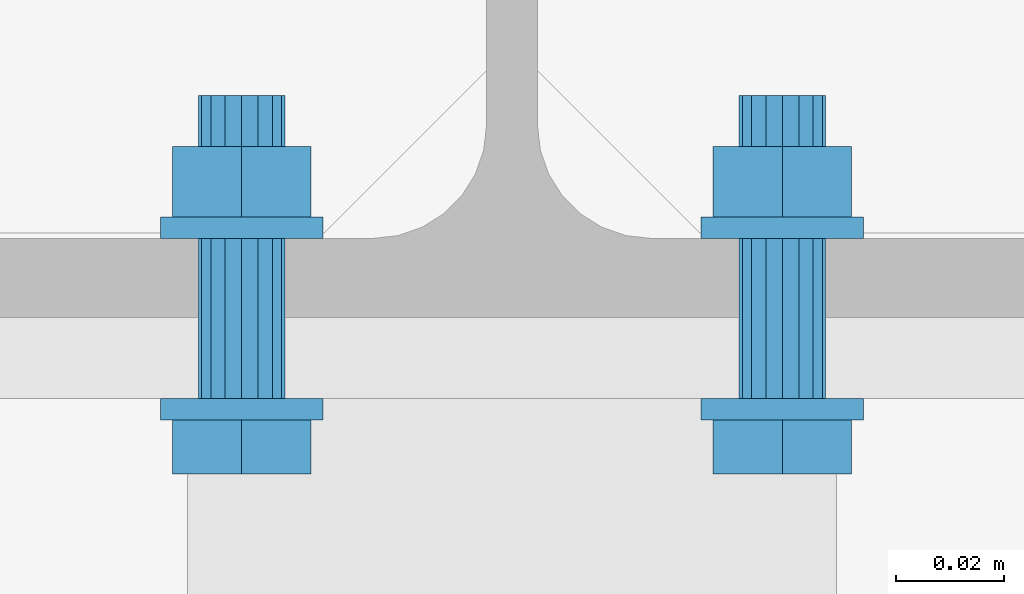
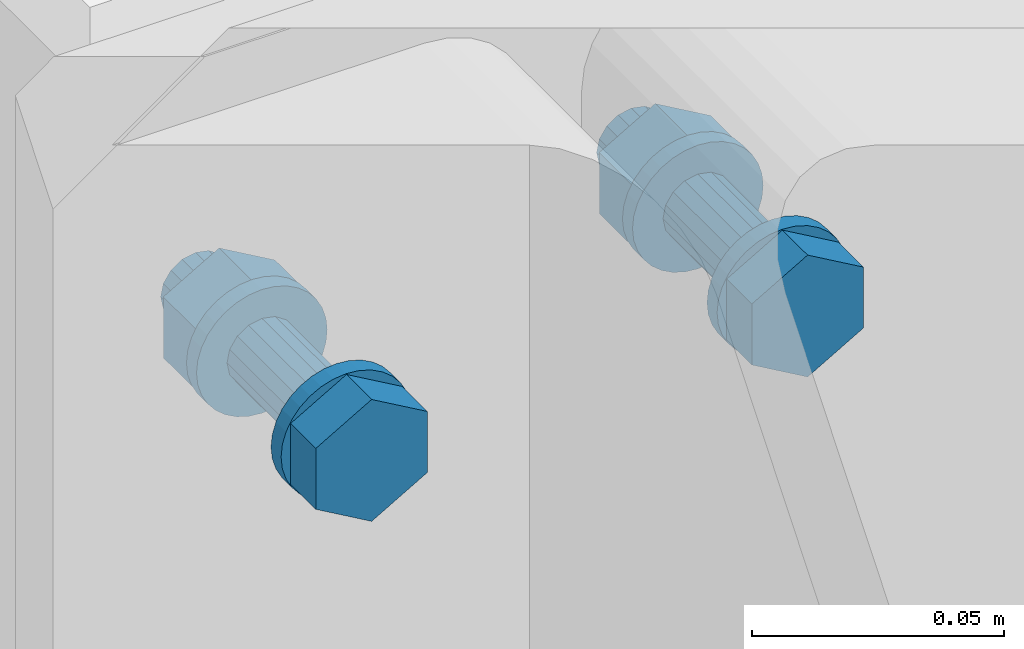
# Not in any storey, part 48 of 50: 2 mechanical fasteners.
"""IFC4 model written with IfcOpenShell, lengths in metres."""

from ifc_helpers import new_model, entity, si_unit, converted_unit, derived_unit, direction, origin, origin_with_axes, place, context, project, spatial, faceted_brep, element, save


model = new_model("IFC4")

# Units and contexts
model_context = context("Model", 3, precision=1e-05, world=origin(), true_north=direction((6.123233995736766e-17, 1.0)))
ifc_project = project(units=[si_unit("LENGTHUNIT", "METRE"), si_unit("AREAUNIT", "SQUARE_METRE"), converted_unit("PLANEANGLEUNIT", "DEGREE", entity("IfcPlaneAngleMeasure", 0.017453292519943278), si_unit("PLANEANGLEUNIT", "RADIAN"), dimensions=[0, 0, 0, 0, 0, 0, 0]), si_unit("VOLUMEUNIT", "CUBIC_METRE"), derived_unit("THERMALTRANSMITTANCEUNIT", [(si_unit("MASSUNIT", "GRAM", prefix="KILO"), 1), (si_unit("THERMODYNAMICTEMPERATUREUNIT", "KELVIN"), -1), (si_unit("TIMEUNIT", "SECOND"), -3)])], contexts=[model_context])

# Site
site_placement = place(None, origin())
site = spatial("IfcSite", under=ifc_project, at=site_placement, Name="Default", CompositionType="ELEMENT")

# Mechanical fasteners
mechanical_fastener_1_placement = place(site_placement, origin_with_axes())
element("IfcMechanicalFastener", 1, at=mechanical_fastener_1_placement, inside=site, ObjectType="Bolt#1", NominalDiameter=0.016, NominalLength=0.06, context=model_context, shape_type="Brep", body=[
    faceted_brep([(23.225144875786, 17.685767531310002, 5.895), (23.225144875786, 17.68976753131, 5.895), (23.22543309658, 17.68976753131, 5.89207364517), (23.22543309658, 17.685767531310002, 5.89207364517), (23.226286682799, 17.68976753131, 5.889259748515), (23.226286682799, 17.685767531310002, 5.889259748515), (23.227672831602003, 17.68976753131, 5.886666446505), (23.227672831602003, 17.685767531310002, 5.886666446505), (23.229538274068, 17.68976753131, 5.884393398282), (23.229538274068, 17.685767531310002, 5.884393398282), (23.231811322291, 17.68976753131, 5.882527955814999), (23.231811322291, 17.685767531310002, 5.882527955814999), (23.234404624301, 17.68976753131, 5.881141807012), (23.234404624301, 17.685767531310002, 5.881141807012), (23.237218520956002, 17.68976753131, 5.880288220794), (23.237218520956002, 17.685767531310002, 5.880288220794), (23.240144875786, 17.68976753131, 5.88), (23.240144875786, 17.685767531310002, 5.88), (23.243071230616, 17.68976753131, 5.880288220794), (23.243071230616, 17.685767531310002, 5.880288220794), (23.245885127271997, 17.68976753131, 5.881141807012), (23.245885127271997, 17.685767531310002, 5.881141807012), (23.248478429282, 17.68976753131, 5.882527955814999), (23.248478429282, 17.685767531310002, 5.882527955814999), (23.250751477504, 17.68976753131, 5.884393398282), (23.250751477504, 17.685767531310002, 5.884393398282), (23.252616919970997, 17.68976753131, 5.886666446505), (23.252616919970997, 17.685767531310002, 5.886666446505), (23.254003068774, 17.68976753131, 5.889259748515), (23.254003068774, 17.685767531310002, 5.889259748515), (23.254856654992, 17.68976753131, 5.89207364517), (23.254856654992, 17.685767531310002, 5.89207364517), (23.255144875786, 17.68976753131, 5.895), (23.255144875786, 17.685767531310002, 5.895), (23.254856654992, 17.68976753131, 5.897926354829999), (23.254856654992, 17.685767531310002, 5.897926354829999), (23.254003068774, 17.68976753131, 5.900740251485), (23.254003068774, 17.685767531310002, 5.900740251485), (23.252616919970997, 17.68976753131, 5.903333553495), (23.252616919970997, 17.685767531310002, 5.903333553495), (23.250751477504, 17.68976753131, 5.9056066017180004), (23.250751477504, 17.685767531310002, 5.9056066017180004), (23.248478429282, 17.68976753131, 5.907472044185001), (23.248478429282, 17.685767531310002, 5.907472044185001), (23.245885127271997, 17.68976753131, 5.908858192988), (23.245885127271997, 17.685767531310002, 5.908858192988), (23.243071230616, 17.68976753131, 5.909711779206), (23.243071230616, 17.685767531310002, 5.909711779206), (23.240144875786, 17.68976753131, 5.91), (23.240144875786, 17.685767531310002, 5.91), (23.237218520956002, 17.68976753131, 5.909711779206), (23.237218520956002, 17.685767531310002, 5.909711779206), (23.234404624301, 17.68976753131, 5.908858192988), (23.234404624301, 17.685767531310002, 5.908858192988), (23.231811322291, 17.68976753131, 5.907472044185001), (23.231811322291, 17.685767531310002, 5.907472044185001), (23.229538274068, 17.68976753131, 5.9056066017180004), (23.229538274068, 17.685767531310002, 5.9056066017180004), (23.227672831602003, 17.68976753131, 5.903333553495), (23.227672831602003, 17.685767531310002, 5.903333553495), (23.226286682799, 17.68976753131, 5.900740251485), (23.226286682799, 17.685767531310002, 5.900740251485), (23.22543309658, 17.68976753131, 5.897926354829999), (23.22543309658, 17.685767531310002, 5.897926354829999)], [[[0, 1, 2, 3]], [[3, 2, 4, 5]], [[5, 4, 6, 7]], [[7, 6, 8, 9]], [[9, 8, 10, 11]], [[11, 10, 12, 13]], [[13, 12, 14, 15]], [[15, 14, 16, 17]], [[17, 16, 18, 19]], [[19, 18, 20, 21]], [[21, 20, 22, 23]], [[23, 22, 24, 25]], [[25, 24, 26, 27]], [[27, 26, 28, 29]], [[29, 28, 30, 31]], [[31, 30, 32, 33]], [[33, 32, 34, 35]], [[35, 34, 36, 37]], [[37, 36, 38, 39]], [[39, 38, 40, 41]], [[41, 40, 42, 43]], [[43, 42, 44, 45]], [[45, 44, 46, 47]], [[47, 46, 48, 49]], [[49, 48, 50, 51]], [[51, 50, 52, 53]], [[53, 52, 54, 55]], [[55, 54, 56, 57]], [[57, 56, 58, 59]], [[59, 58, 60, 61]], [[61, 60, 62, 63]], [[63, 62, 1, 0]], [[0, 3, 5, 7, 9, 11, 13, 15, 17, 19, 21, 23, 25, 27, 29, 31, 33, 35, 37, 39, 41, 43, 45, 47, 49, 51, 53, 55, 57, 59, 61, 63]], [[1, 62, 60, 58, 56, 54, 52, 50, 48, 46, 44, 42, 40, 38, 36, 34, 32, 30, 28, 26, 24, 22, 20, 18, 16, 14, 12, 10, 8, 6, 4, 2]]]),
    faceted_brep([(23.252944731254, 17.685767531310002, 5.88761), (23.252944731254, 17.67576753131, 5.88761), (23.240144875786, 17.67576753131, 5.8802200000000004), (23.240144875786, 17.685767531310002, 5.8802200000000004), (23.227345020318, 17.67576753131, 5.88761), (23.227345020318, 17.685767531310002, 5.88761), (23.227345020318, 17.67576753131, 5.9023900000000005), (23.227345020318, 17.685767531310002, 5.9023900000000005), (23.240144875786, 17.67576753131, 5.90978), (23.240144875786, 17.685767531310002, 5.90978), (23.252944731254, 17.67576753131, 5.9023900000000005), (23.252944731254, 17.685767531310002, 5.9023900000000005)], [[[0, 1, 2, 3]], [[3, 2, 4, 5]], [[5, 4, 6, 7]], [[7, 6, 8, 9]], [[9, 8, 10, 11]], [[11, 10, 1, 0]], [[4, 2, 1, 10, 8, 6]], [[0, 3, 5, 7, 9, 11]]]),
    faceted_brep([(23.232144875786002, 17.68976753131, 5.895), (23.232144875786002, 17.71936753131, 5.895), (23.232753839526, 17.71936753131, 5.891938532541), (23.232753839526, 17.68976753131, 5.891938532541), (23.234488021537, 17.71936753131, 5.889343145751), (23.234488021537, 17.68976753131, 5.889343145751), (23.237083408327, 17.71936753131, 5.88760896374), (23.237083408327, 17.68976753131, 5.88760896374), (23.240144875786, 17.71936753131, 5.887), (23.240144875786, 17.68976753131, 5.887), (23.243206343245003, 17.71936753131, 5.88760896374), (23.243206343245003, 17.68976753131, 5.88760896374), (23.245801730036, 17.71936753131, 5.889343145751), (23.245801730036, 17.68976753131, 5.889343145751), (23.247535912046, 17.71936753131, 5.891938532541), (23.247535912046, 17.68976753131, 5.891938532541), (23.248144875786, 17.71936753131, 5.895), (23.248144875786, 17.68976753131, 5.895), (23.247535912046, 17.71936753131, 5.898061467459), (23.247535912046, 17.68976753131, 5.898061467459), (23.245801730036, 17.71936753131, 5.900656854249), (23.245801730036, 17.68976753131, 5.900656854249), (23.243206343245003, 17.71936753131, 5.90239103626), (23.243206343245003, 17.68976753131, 5.90239103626), (23.240144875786, 17.71936753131, 5.903), (23.240144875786, 17.68976753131, 5.903), (23.237083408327, 17.71936753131, 5.90239103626), (23.237083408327, 17.68976753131, 5.90239103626), (23.234488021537, 17.71936753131, 5.900656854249), (23.234488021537, 17.68976753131, 5.900656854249), (23.232753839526, 17.71936753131, 5.898061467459), (23.232753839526, 17.68976753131, 5.898061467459)], [[[0, 1, 2, 3]], [[3, 2, 4, 5]], [[5, 4, 6, 7]], [[7, 6, 8, 9]], [[9, 8, 10, 11]], [[11, 10, 12, 13]], [[13, 12, 14, 15]], [[15, 14, 16, 17]], [[17, 16, 18, 19]], [[19, 18, 20, 21]], [[21, 20, 22, 23]], [[23, 22, 24, 25]], [[25, 24, 26, 27]], [[27, 26, 28, 29]], [[29, 28, 30, 31]], [[31, 30, 1, 0]], [[0, 3, 5, 7, 9, 11, 13, 15, 17, 19, 21, 23, 25, 27, 29, 31]], [[1, 30, 28, 26, 24, 22, 20, 18, 16, 14, 12, 10, 8, 6, 4, 2]]]),
    faceted_brep([(23.225144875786, 17.71936753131, 5.895), (23.225144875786, 17.72336753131, 5.895), (23.22543309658, 17.72336753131, 5.89207364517), (23.22543309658, 17.71936753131, 5.89207364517), (23.226286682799, 17.72336753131, 5.889259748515), (23.226286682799, 17.71936753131, 5.889259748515), (23.227672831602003, 17.72336753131, 5.886666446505), (23.227672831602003, 17.71936753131, 5.886666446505), (23.229538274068, 17.72336753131, 5.884393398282), (23.229538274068, 17.71936753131, 5.884393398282), (23.231811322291, 17.72336753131, 5.882527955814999), (23.231811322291, 17.71936753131, 5.882527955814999), (23.234404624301, 17.72336753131, 5.881141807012), (23.234404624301, 17.71936753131, 5.881141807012), (23.237218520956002, 17.72336753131, 5.880288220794), (23.237218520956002, 17.71936753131, 5.880288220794), (23.240144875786, 17.72336753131, 5.88), (23.240144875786, 17.71936753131, 5.88), (23.243071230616, 17.72336753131, 5.880288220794), (23.243071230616, 17.71936753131, 5.880288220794), (23.245885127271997, 17.72336753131, 5.881141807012), (23.245885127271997, 17.71936753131, 5.881141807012), (23.248478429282, 17.72336753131, 5.882527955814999), (23.248478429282, 17.71936753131, 5.882527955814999), (23.250751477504, 17.72336753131, 5.884393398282), (23.250751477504, 17.71936753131, 5.884393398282), (23.252616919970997, 17.72336753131, 5.886666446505), (23.252616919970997, 17.71936753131, 5.886666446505), (23.254003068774, 17.72336753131, 5.889259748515), (23.254003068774, 17.71936753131, 5.889259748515), (23.254856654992, 17.72336753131, 5.89207364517), (23.254856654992, 17.71936753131, 5.89207364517), (23.255144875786, 17.72336753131, 5.895), (23.255144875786, 17.71936753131, 5.895), (23.254856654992, 17.72336753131, 5.897926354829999), (23.254856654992, 17.71936753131, 5.897926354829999), (23.254003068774, 17.72336753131, 5.900740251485), (23.254003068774, 17.71936753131, 5.900740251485), (23.252616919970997, 17.72336753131, 5.903333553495), (23.252616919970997, 17.71936753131, 5.903333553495), (23.250751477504, 17.72336753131, 5.9056066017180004), (23.250751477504, 17.71936753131, 5.9056066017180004), (23.248478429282, 17.72336753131, 5.907472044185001), (23.248478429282, 17.71936753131, 5.907472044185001), (23.245885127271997, 17.72336753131, 5.908858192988), (23.245885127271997, 17.71936753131, 5.908858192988), (23.243071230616, 17.72336753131, 5.909711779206), (23.243071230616, 17.71936753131, 5.909711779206), (23.240144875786, 17.72336753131, 5.91), (23.240144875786, 17.71936753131, 5.91), (23.237218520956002, 17.72336753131, 5.909711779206), (23.237218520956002, 17.71936753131, 5.909711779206), (23.234404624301, 17.72336753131, 5.908858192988), (23.234404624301, 17.71936753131, 5.908858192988), (23.231811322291, 17.72336753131, 5.907472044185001), (23.231811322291, 17.71936753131, 5.907472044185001), (23.229538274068, 17.72336753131, 5.9056066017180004), (23.229538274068, 17.71936753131, 5.9056066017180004), (23.227672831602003, 17.72336753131, 5.903333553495), (23.227672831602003, 17.71936753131, 5.903333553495), (23.226286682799, 17.72336753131, 5.900740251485), (23.226286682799, 17.71936753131, 5.900740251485), (23.22543309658, 17.72336753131, 5.897926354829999), (23.22543309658, 17.71936753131, 5.897926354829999)], [[[0, 1, 2, 3]], [[3, 2, 4, 5]], [[5, 4, 6, 7]], [[7, 6, 8, 9]], [[9, 8, 10, 11]], [[11, 10, 12, 13]], [[13, 12, 14, 15]], [[15, 14, 16, 17]], [[17, 16, 18, 19]], [[19, 18, 20, 21]], [[21, 20, 22, 23]], [[23, 22, 24, 25]], [[25, 24, 26, 27]], [[27, 26, 28, 29]], [[29, 28, 30, 31]], [[31, 30, 32, 33]], [[33, 32, 34, 35]], [[35, 34, 36, 37]], [[37, 36, 38, 39]], [[39, 38, 40, 41]], [[41, 40, 42, 43]], [[43, 42, 44, 45]], [[45, 44, 46, 47]], [[47, 46, 48, 49]], [[49, 48, 50, 51]], [[51, 50, 52, 53]], [[53, 52, 54, 55]], [[55, 54, 56, 57]], [[57, 56, 58, 59]], [[59, 58, 60, 61]], [[61, 60, 62, 63]], [[63, 62, 1, 0]], [[0, 3, 5, 7, 9, 11, 13, 15, 17, 19, 21, 23, 25, 27, 29, 31, 33, 35, 37, 39, 41, 43, 45, 47, 49, 51, 53, 55, 57, 59, 61, 63]], [[1, 62, 60, 58, 56, 54, 52, 50, 48, 46, 44, 42, 40, 38, 36, 34, 32, 30, 28, 26, 24, 22, 20, 18, 16, 14, 12, 10, 8, 6, 4, 2]]]),
    faceted_brep([(23.252944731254, 17.736367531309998, 5.88761), (23.252944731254, 17.72336753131, 5.88761), (23.240144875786, 17.72336753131, 5.8802200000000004), (23.240144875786, 17.736367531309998, 5.8802200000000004), (23.227345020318, 17.72336753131, 5.88761), (23.227345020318, 17.736367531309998, 5.88761), (23.227345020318, 17.72336753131, 5.9023900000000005), (23.227345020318, 17.736367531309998, 5.9023900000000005), (23.240144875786, 17.72336753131, 5.90978), (23.240144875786, 17.736367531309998, 5.90978), (23.252944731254, 17.72336753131, 5.9023900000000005), (23.252944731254, 17.736367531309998, 5.9023900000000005)], [[[0, 1, 2, 3]], [[3, 2, 4, 5]], [[5, 4, 6, 7]], [[7, 6, 8, 9]], [[9, 8, 10, 11]], [[11, 10, 1, 0]], [[4, 2, 1, 10, 8, 6]], [[0, 3, 5, 7, 9, 11]]]),
    faceted_brep([(23.232144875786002, 17.736367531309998, 5.895), (23.232144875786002, 17.74576753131, 5.895), (23.232753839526, 17.74576753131, 5.891938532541), (23.232753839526, 17.736367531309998, 5.891938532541), (23.234488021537, 17.74576753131, 5.889343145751), (23.234488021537, 17.736367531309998, 5.889343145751), (23.237083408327, 17.74576753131, 5.88760896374), (23.237083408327, 17.736367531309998, 5.88760896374), (23.240144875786, 17.74576753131, 5.887), (23.240144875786, 17.736367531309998, 5.887), (23.243206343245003, 17.74576753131, 5.88760896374), (23.243206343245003, 17.736367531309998, 5.88760896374), (23.245801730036, 17.74576753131, 5.889343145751), (23.245801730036, 17.736367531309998, 5.889343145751), (23.247535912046, 17.74576753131, 5.891938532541), (23.247535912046, 17.736367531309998, 5.891938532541), (23.248144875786, 17.74576753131, 5.895), (23.248144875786, 17.736367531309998, 5.895), (23.247535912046, 17.74576753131, 5.898061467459), (23.247535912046, 17.736367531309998, 5.898061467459), (23.245801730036, 17.74576753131, 5.900656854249), (23.245801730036, 17.736367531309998, 5.900656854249), (23.243206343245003, 17.74576753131, 5.90239103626), (23.243206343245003, 17.736367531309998, 5.90239103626), (23.240144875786, 17.74576753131, 5.903), (23.240144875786, 17.736367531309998, 5.903), (23.237083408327, 17.74576753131, 5.90239103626), (23.237083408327, 17.736367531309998, 5.90239103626), (23.234488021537, 17.74576753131, 5.900656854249), (23.234488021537, 17.736367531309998, 5.900656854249), (23.232753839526, 17.74576753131, 5.898061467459), (23.232753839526, 17.736367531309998, 5.898061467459)], [[[0, 1, 2, 3]], [[3, 2, 4, 5]], [[5, 4, 6, 7]], [[7, 6, 8, 9]], [[9, 8, 10, 11]], [[11, 10, 12, 13]], [[13, 12, 14, 15]], [[15, 14, 16, 17]], [[17, 16, 18, 19]], [[19, 18, 20, 21]], [[21, 20, 22, 23]], [[23, 22, 24, 25]], [[25, 24, 26, 27]], [[27, 26, 28, 29]], [[29, 28, 30, 31]], [[31, 30, 1, 0]], [[0, 3, 5, 7, 9, 11, 13, 15, 17, 19, 21, 23, 25, 27, 29, 31]], [[1, 30, 28, 26, 24, 22, 20, 18, 16, 14, 12, 10, 8, 6, 4, 2]]]),
])
mechanical_fastener_2_placement = place(site_placement, origin_with_axes())
element("IfcMechanicalFastener", 2, at=mechanical_fastener_2_placement, inside=site, ObjectType="Bolt#2", NominalDiameter=0.016, NominalLength=0.06, context=model_context, shape_type="Brep", body=[
    faceted_brep([(23.125144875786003, 17.685767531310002, 5.895), (23.125144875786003, 17.68976753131, 5.895), (23.12543309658, 17.68976753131, 5.89207364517), (23.12543309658, 17.685767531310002, 5.89207364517), (23.126286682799, 17.68976753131, 5.889259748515), (23.126286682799, 17.685767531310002, 5.889259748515), (23.127672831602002, 17.68976753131, 5.886666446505), (23.127672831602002, 17.685767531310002, 5.886666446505), (23.129538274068, 17.68976753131, 5.884393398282), (23.129538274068, 17.685767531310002, 5.884393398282), (23.131811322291, 17.68976753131, 5.882527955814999), (23.131811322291, 17.685767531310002, 5.882527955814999), (23.134404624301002, 17.68976753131, 5.881141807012), (23.134404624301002, 17.685767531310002, 5.881141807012), (23.137218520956, 17.68976753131, 5.880288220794), (23.137218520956, 17.685767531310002, 5.880288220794), (23.140144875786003, 17.68976753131, 5.88), (23.140144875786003, 17.685767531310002, 5.88), (23.143071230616, 17.68976753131, 5.880288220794), (23.143071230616, 17.685767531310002, 5.880288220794), (23.145885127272, 17.68976753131, 5.881141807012), (23.145885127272, 17.685767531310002, 5.881141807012), (23.148478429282, 17.68976753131, 5.882527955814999), (23.148478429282, 17.685767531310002, 5.882527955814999), (23.150751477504, 17.68976753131, 5.884393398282), (23.150751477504, 17.685767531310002, 5.884393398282), (23.152616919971, 17.68976753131, 5.886666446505), (23.152616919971, 17.685767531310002, 5.886666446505), (23.154003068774, 17.68976753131, 5.889259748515), (23.154003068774, 17.685767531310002, 5.889259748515), (23.154856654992, 17.68976753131, 5.89207364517), (23.154856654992, 17.685767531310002, 5.89207364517), (23.155144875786, 17.68976753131, 5.895), (23.155144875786, 17.685767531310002, 5.895), (23.154856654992, 17.68976753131, 5.897926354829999), (23.154856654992, 17.685767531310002, 5.897926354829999), (23.154003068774, 17.68976753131, 5.900740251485), (23.154003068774, 17.685767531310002, 5.900740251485), (23.152616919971, 17.68976753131, 5.903333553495), (23.152616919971, 17.685767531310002, 5.903333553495), (23.150751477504, 17.68976753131, 5.9056066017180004), (23.150751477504, 17.685767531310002, 5.9056066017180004), (23.148478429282, 17.68976753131, 5.907472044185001), (23.148478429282, 17.685767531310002, 5.907472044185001), (23.145885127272, 17.68976753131, 5.908858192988), (23.145885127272, 17.685767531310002, 5.908858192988), (23.143071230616, 17.68976753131, 5.909711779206), (23.143071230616, 17.685767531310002, 5.909711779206), (23.140144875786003, 17.68976753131, 5.91), (23.140144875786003, 17.685767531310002, 5.91), (23.137218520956, 17.68976753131, 5.909711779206), (23.137218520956, 17.685767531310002, 5.909711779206), (23.134404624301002, 17.68976753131, 5.908858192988), (23.134404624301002, 17.685767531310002, 5.908858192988), (23.131811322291, 17.68976753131, 5.907472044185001), (23.131811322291, 17.685767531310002, 5.907472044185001), (23.129538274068, 17.68976753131, 5.9056066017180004), (23.129538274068, 17.685767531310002, 5.9056066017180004), (23.127672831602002, 17.68976753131, 5.903333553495), (23.127672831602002, 17.685767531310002, 5.903333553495), (23.126286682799, 17.68976753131, 5.900740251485), (23.126286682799, 17.685767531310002, 5.900740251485), (23.12543309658, 17.68976753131, 5.897926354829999), (23.12543309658, 17.685767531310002, 5.897926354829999)], [[[0, 1, 2, 3]], [[3, 2, 4, 5]], [[5, 4, 6, 7]], [[7, 6, 8, 9]], [[9, 8, 10, 11]], [[11, 10, 12, 13]], [[13, 12, 14, 15]], [[15, 14, 16, 17]], [[17, 16, 18, 19]], [[19, 18, 20, 21]], [[21, 20, 22, 23]], [[23, 22, 24, 25]], [[25, 24, 26, 27]], [[27, 26, 28, 29]], [[29, 28, 30, 31]], [[31, 30, 32, 33]], [[33, 32, 34, 35]], [[35, 34, 36, 37]], [[37, 36, 38, 39]], [[39, 38, 40, 41]], [[41, 40, 42, 43]], [[43, 42, 44, 45]], [[45, 44, 46, 47]], [[47, 46, 48, 49]], [[49, 48, 50, 51]], [[51, 50, 52, 53]], [[53, 52, 54, 55]], [[55, 54, 56, 57]], [[57, 56, 58, 59]], [[59, 58, 60, 61]], [[61, 60, 62, 63]], [[63, 62, 1, 0]], [[0, 3, 5, 7, 9, 11, 13, 15, 17, 19, 21, 23, 25, 27, 29, 31, 33, 35, 37, 39, 41, 43, 45, 47, 49, 51, 53, 55, 57, 59, 61, 63]], [[1, 62, 60, 58, 56, 54, 52, 50, 48, 46, 44, 42, 40, 38, 36, 34, 32, 30, 28, 26, 24, 22, 20, 18, 16, 14, 12, 10, 8, 6, 4, 2]]]),
    faceted_brep([(23.152944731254, 17.685767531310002, 5.88761), (23.152944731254, 17.67576753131, 5.88761), (23.140144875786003, 17.67576753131, 5.8802200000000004), (23.140144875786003, 17.685767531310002, 5.8802200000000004), (23.127345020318, 17.67576753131, 5.88761), (23.127345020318, 17.685767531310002, 5.88761), (23.127345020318, 17.67576753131, 5.9023900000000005), (23.127345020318, 17.685767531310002, 5.9023900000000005), (23.140144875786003, 17.67576753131, 5.90978), (23.140144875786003, 17.685767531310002, 5.90978), (23.152944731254, 17.67576753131, 5.9023900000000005), (23.152944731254, 17.685767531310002, 5.9023900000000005)], [[[0, 1, 2, 3]], [[3, 2, 4, 5]], [[5, 4, 6, 7]], [[7, 6, 8, 9]], [[9, 8, 10, 11]], [[11, 10, 1, 0]], [[4, 2, 1, 10, 8, 6]], [[0, 3, 5, 7, 9, 11]]]),
    faceted_brep([(23.132144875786, 17.68976753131, 5.895), (23.132144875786, 17.71936753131, 5.895), (23.132753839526, 17.71936753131, 5.891938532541), (23.132753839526, 17.68976753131, 5.891938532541), (23.134488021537, 17.71936753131, 5.889343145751), (23.134488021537, 17.68976753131, 5.889343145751), (23.137083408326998, 17.71936753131, 5.88760896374), (23.137083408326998, 17.68976753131, 5.88760896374), (23.140144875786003, 17.71936753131, 5.887), (23.140144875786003, 17.68976753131, 5.887), (23.143206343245, 17.71936753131, 5.88760896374), (23.143206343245, 17.68976753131, 5.88760896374), (23.145801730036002, 17.71936753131, 5.889343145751), (23.145801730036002, 17.68976753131, 5.889343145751), (23.147535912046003, 17.71936753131, 5.891938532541), (23.147535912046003, 17.68976753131, 5.891938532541), (23.148144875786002, 17.71936753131, 5.895), (23.148144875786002, 17.68976753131, 5.895), (23.147535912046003, 17.71936753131, 5.898061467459), (23.147535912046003, 17.68976753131, 5.898061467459), (23.145801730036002, 17.71936753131, 5.900656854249), (23.145801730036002, 17.68976753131, 5.900656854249), (23.143206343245, 17.71936753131, 5.90239103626), (23.143206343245, 17.68976753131, 5.90239103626), (23.140144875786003, 17.71936753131, 5.903), (23.140144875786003, 17.68976753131, 5.903), (23.137083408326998, 17.71936753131, 5.90239103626), (23.137083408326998, 17.68976753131, 5.90239103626), (23.134488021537, 17.71936753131, 5.900656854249), (23.134488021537, 17.68976753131, 5.900656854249), (23.132753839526, 17.71936753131, 5.898061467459), (23.132753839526, 17.68976753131, 5.898061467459)], [[[0, 1, 2, 3]], [[3, 2, 4, 5]], [[5, 4, 6, 7]], [[7, 6, 8, 9]], [[9, 8, 10, 11]], [[11, 10, 12, 13]], [[13, 12, 14, 15]], [[15, 14, 16, 17]], [[17, 16, 18, 19]], [[19, 18, 20, 21]], [[21, 20, 22, 23]], [[23, 22, 24, 25]], [[25, 24, 26, 27]], [[27, 26, 28, 29]], [[29, 28, 30, 31]], [[31, 30, 1, 0]], [[0, 3, 5, 7, 9, 11, 13, 15, 17, 19, 21, 23, 25, 27, 29, 31]], [[1, 30, 28, 26, 24, 22, 20, 18, 16, 14, 12, 10, 8, 6, 4, 2]]]),
    faceted_brep([(23.125144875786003, 17.71936753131, 5.895), (23.125144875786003, 17.72336753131, 5.895), (23.12543309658, 17.72336753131, 5.89207364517), (23.12543309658, 17.71936753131, 5.89207364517), (23.126286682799, 17.72336753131, 5.889259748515), (23.126286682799, 17.71936753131, 5.889259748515), (23.127672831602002, 17.72336753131, 5.886666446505), (23.127672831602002, 17.71936753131, 5.886666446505), (23.129538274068, 17.72336753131, 5.884393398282), (23.129538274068, 17.71936753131, 5.884393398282), (23.131811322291, 17.72336753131, 5.882527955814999), (23.131811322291, 17.71936753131, 5.882527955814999), (23.134404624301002, 17.72336753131, 5.881141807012), (23.134404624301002, 17.71936753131, 5.881141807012), (23.137218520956, 17.72336753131, 5.880288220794), (23.137218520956, 17.71936753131, 5.880288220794), (23.140144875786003, 17.72336753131, 5.88), (23.140144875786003, 17.71936753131, 5.88), (23.143071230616, 17.72336753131, 5.880288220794), (23.143071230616, 17.71936753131, 5.880288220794), (23.145885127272, 17.72336753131, 5.881141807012), (23.145885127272, 17.71936753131, 5.881141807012), (23.148478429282, 17.72336753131, 5.882527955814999), (23.148478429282, 17.71936753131, 5.882527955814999), (23.150751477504, 17.72336753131, 5.884393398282), (23.150751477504, 17.71936753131, 5.884393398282), (23.152616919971, 17.72336753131, 5.886666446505), (23.152616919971, 17.71936753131, 5.886666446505), (23.154003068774, 17.72336753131, 5.889259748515), (23.154003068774, 17.71936753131, 5.889259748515), (23.154856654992, 17.72336753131, 5.89207364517), (23.154856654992, 17.71936753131, 5.89207364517), (23.155144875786, 17.72336753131, 5.895), (23.155144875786, 17.71936753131, 5.895), (23.154856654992, 17.72336753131, 5.897926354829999), (23.154856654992, 17.71936753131, 5.897926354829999), (23.154003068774, 17.72336753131, 5.900740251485), (23.154003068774, 17.71936753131, 5.900740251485), (23.152616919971, 17.72336753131, 5.903333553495), (23.152616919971, 17.71936753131, 5.903333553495), (23.150751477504, 17.72336753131, 5.9056066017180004), (23.150751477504, 17.71936753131, 5.9056066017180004), (23.148478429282, 17.72336753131, 5.907472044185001), (23.148478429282, 17.71936753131, 5.907472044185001), (23.145885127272, 17.72336753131, 5.908858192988), (23.145885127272, 17.71936753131, 5.908858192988), (23.143071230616, 17.72336753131, 5.909711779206), (23.143071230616, 17.71936753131, 5.909711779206), (23.140144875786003, 17.72336753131, 5.91), (23.140144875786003, 17.71936753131, 5.91), (23.137218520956, 17.72336753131, 5.909711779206), (23.137218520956, 17.71936753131, 5.909711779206), (23.134404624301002, 17.72336753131, 5.908858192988), (23.134404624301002, 17.71936753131, 5.908858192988), (23.131811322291, 17.72336753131, 5.907472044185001), (23.131811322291, 17.71936753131, 5.907472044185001), (23.129538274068, 17.72336753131, 5.9056066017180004), (23.129538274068, 17.71936753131, 5.9056066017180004), (23.127672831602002, 17.72336753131, 5.903333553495), (23.127672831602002, 17.71936753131, 5.903333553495), (23.126286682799, 17.72336753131, 5.900740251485), (23.126286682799, 17.71936753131, 5.900740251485), (23.12543309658, 17.72336753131, 5.897926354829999), (23.12543309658, 17.71936753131, 5.897926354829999)], [[[0, 1, 2, 3]], [[3, 2, 4, 5]], [[5, 4, 6, 7]], [[7, 6, 8, 9]], [[9, 8, 10, 11]], [[11, 10, 12, 13]], [[13, 12, 14, 15]], [[15, 14, 16, 17]], [[17, 16, 18, 19]], [[19, 18, 20, 21]], [[21, 20, 22, 23]], [[23, 22, 24, 25]], [[25, 24, 26, 27]], [[27, 26, 28, 29]], [[29, 28, 30, 31]], [[31, 30, 32, 33]], [[33, 32, 34, 35]], [[35, 34, 36, 37]], [[37, 36, 38, 39]], [[39, 38, 40, 41]], [[41, 40, 42, 43]], [[43, 42, 44, 45]], [[45, 44, 46, 47]], [[47, 46, 48, 49]], [[49, 48, 50, 51]], [[51, 50, 52, 53]], [[53, 52, 54, 55]], [[55, 54, 56, 57]], [[57, 56, 58, 59]], [[59, 58, 60, 61]], [[61, 60, 62, 63]], [[63, 62, 1, 0]], [[0, 3, 5, 7, 9, 11, 13, 15, 17, 19, 21, 23, 25, 27, 29, 31, 33, 35, 37, 39, 41, 43, 45, 47, 49, 51, 53, 55, 57, 59, 61, 63]], [[1, 62, 60, 58, 56, 54, 52, 50, 48, 46, 44, 42, 40, 38, 36, 34, 32, 30, 28, 26, 24, 22, 20, 18, 16, 14, 12, 10, 8, 6, 4, 2]]]),
    faceted_brep([(23.152944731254, 17.736367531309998, 5.88761), (23.152944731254, 17.72336753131, 5.88761), (23.140144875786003, 17.72336753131, 5.8802200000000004), (23.140144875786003, 17.736367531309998, 5.8802200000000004), (23.127345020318, 17.72336753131, 5.88761), (23.127345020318, 17.736367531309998, 5.88761), (23.127345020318, 17.72336753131, 5.9023900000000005), (23.127345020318, 17.736367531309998, 5.9023900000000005), (23.140144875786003, 17.72336753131, 5.90978), (23.140144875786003, 17.736367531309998, 5.90978), (23.152944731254, 17.72336753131, 5.9023900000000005), (23.152944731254, 17.736367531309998, 5.9023900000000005)], [[[0, 1, 2, 3]], [[3, 2, 4, 5]], [[5, 4, 6, 7]], [[7, 6, 8, 9]], [[9, 8, 10, 11]], [[11, 10, 1, 0]], [[4, 2, 1, 10, 8, 6]], [[0, 3, 5, 7, 9, 11]]]),
    faceted_brep([(23.132144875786, 17.736367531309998, 5.895), (23.132144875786, 17.74576753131, 5.895), (23.132753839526, 17.74576753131, 5.891938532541), (23.132753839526, 17.736367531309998, 5.891938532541), (23.134488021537, 17.74576753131, 5.889343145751), (23.134488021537, 17.736367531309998, 5.889343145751), (23.137083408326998, 17.74576753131, 5.88760896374), (23.137083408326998, 17.736367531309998, 5.88760896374), (23.140144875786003, 17.74576753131, 5.887), (23.140144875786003, 17.736367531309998, 5.887), (23.143206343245, 17.74576753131, 5.88760896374), (23.143206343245, 17.736367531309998, 5.88760896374), (23.145801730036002, 17.74576753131, 5.889343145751), (23.145801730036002, 17.736367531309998, 5.889343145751), (23.147535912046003, 17.74576753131, 5.891938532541), (23.147535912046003, 17.736367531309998, 5.891938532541), (23.148144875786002, 17.74576753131, 5.895), (23.148144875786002, 17.736367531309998, 5.895), (23.147535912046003, 17.74576753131, 5.898061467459), (23.147535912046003, 17.736367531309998, 5.898061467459), (23.145801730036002, 17.74576753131, 5.900656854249), (23.145801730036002, 17.736367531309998, 5.900656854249), (23.143206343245, 17.74576753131, 5.90239103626), (23.143206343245, 17.736367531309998, 5.90239103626), (23.140144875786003, 17.74576753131, 5.903), (23.140144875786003, 17.736367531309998, 5.903), (23.137083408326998, 17.74576753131, 5.90239103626), (23.137083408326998, 17.736367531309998, 5.90239103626), (23.134488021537, 17.74576753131, 5.900656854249), (23.134488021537, 17.736367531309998, 5.900656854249), (23.132753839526, 17.74576753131, 5.898061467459), (23.132753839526, 17.736367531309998, 5.898061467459)], [[[0, 1, 2, 3]], [[3, 2, 4, 5]], [[5, 4, 6, 7]], [[7, 6, 8, 9]], [[9, 8, 10, 11]], [[11, 10, 12, 13]], [[13, 12, 14, 15]], [[15, 14, 16, 17]], [[17, 16, 18, 19]], [[19, 18, 20, 21]], [[21, 20, 22, 23]], [[23, 22, 24, 25]], [[25, 24, 26, 27]], [[27, 26, 28, 29]], [[29, 28, 30, 31]], [[31, 30, 1, 0]], [[0, 3, 5, 7, 9, 11, 13, 15, 17, 19, 21, 23, 25, 27, 29, 31]], [[1, 30, 28, 26, 24, 22, 20, 18, 16, 14, 12, 10, 8, 6, 4, 2]]]),
])

save(model, "model.ifc")
